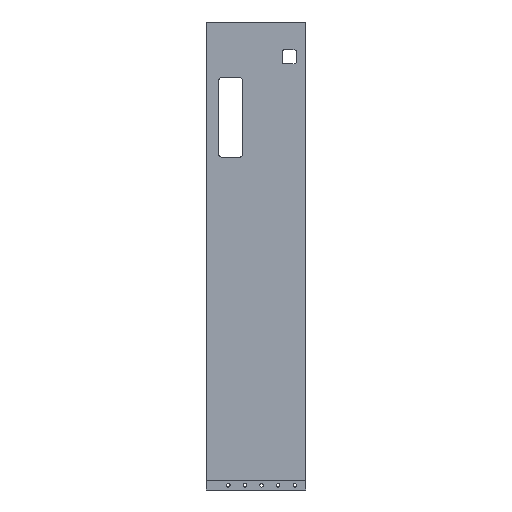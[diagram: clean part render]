
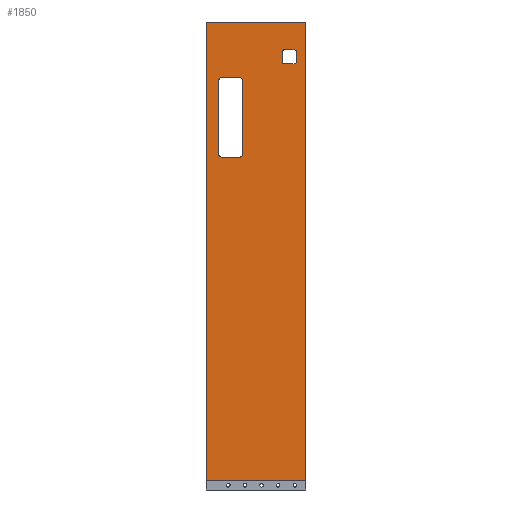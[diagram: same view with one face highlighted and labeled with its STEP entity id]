
A CAD part, front view. The second image highlights one B-rep face of the part: STEP entity #1850.
In plain terms, the highlighted planar face has unit normal (0, -1, 0).
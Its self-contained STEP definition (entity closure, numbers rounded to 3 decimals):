
#33=PLANE('',#2139);
#40=LINE('',#2807,#90);
#43=LINE('',#2818,#93);
#47=LINE('',#2830,#97);
#50=LINE('',#2839,#100);
#56=LINE('',#2909,#106);
#60=LINE('',#2921,#110);
#64=LINE('',#2933,#114);
#66=LINE('',#2941,#116);
#68=LINE('',#3241,#118);
#78=LINE('',#3260,#128);
#81=LINE('',#3267,#131);
#84=LINE('',#3272,#134);
#90=VECTOR('',#2188,12.);
#93=VECTOR('',#2199,12.);
#97=VECTOR('',#2211,12.);
#100=VECTOR('',#2222,12.);
#106=VECTOR('',#2308,94.);
#110=VECTOR('',#2320,24.);
#114=VECTOR('',#2332,94.);
#116=VECTOR('',#2342,24.);
#118=VECTOR('',#2736,126.);
#128=VECTOR('',#2750,578.5);
#131=VECTOR('',#2757,578.5);
#134=VECTOR('',#2762,126.);
#244=FACE_BOUND('',#738,.T.);
#245=FACE_BOUND('',#739,.T.);
#484=FACE_OUTER_BOUND('',#737,.T.);
#737=EDGE_LOOP('',(#1588,#1589,#1590,#1591));
#738=EDGE_LOOP('',(#1592,#1593,#1594,#1595,#1596,#1597,#1598,#1599));
#739=EDGE_LOOP('',(#1600,#1601,#1602,#1603,#1604,#1605,#1606,#1607));
#776=CIRCLE('',#1873,3.);
#778=CIRCLE('',#1877,3.);
#780=CIRCLE('',#1881,3.);
#782=CIRCLE('',#1885,3.);
#802=CIRCLE('',#1925,3.);
#804=CIRCLE('',#1929,3.);
#806=CIRCLE('',#1933,3.);
#808=CIRCLE('',#1937,3.);
#919=VERTEX_POINT('',#2797);
#920=VERTEX_POINT('',#2799);
#922=VERTEX_POINT('',#2805);
#925=VERTEX_POINT('',#2812);
#926=VERTEX_POINT('',#2814);
#929=VERTEX_POINT('',#2824);
#930=VERTEX_POINT('',#2826);
#932=VERTEX_POINT('',#2835);
#953=VERTEX_POINT('',#2899);
#954=VERTEX_POINT('',#2901);
#956=VERTEX_POINT('',#2907);
#958=VERTEX_POINT('',#2913);
#960=VERTEX_POINT('',#2919);
#962=VERTEX_POINT('',#2925);
#964=VERTEX_POINT('',#2931);
#966=VERTEX_POINT('',#2937);
#1067=VERTEX_POINT('',#3239);
#1068=VERTEX_POINT('',#3240);
#1075=VERTEX_POINT('',#3258);
#1077=VERTEX_POINT('',#3266);
#1089=EDGE_CURVE('',#919,#920,#776,.T.);
#1093=EDGE_CURVE('',#919,#922,#40,.T.);
#1096=EDGE_CURVE('',#925,#926,#778,.T.);
#1098=EDGE_CURVE('',#925,#920,#43,.T.);
#1102=EDGE_CURVE('',#929,#930,#780,.T.);
#1104=EDGE_CURVE('',#929,#926,#47,.T.);
#1108=EDGE_CURVE('',#932,#922,#782,.T.);
#1109=EDGE_CURVE('',#932,#930,#50,.T.);
#1131=EDGE_CURVE('',#953,#954,#802,.T.);
#1135=EDGE_CURVE('',#953,#956,#56,.T.);
#1138=EDGE_CURVE('',#958,#956,#804,.T.);
#1141=EDGE_CURVE('',#958,#960,#60,.T.);
#1144=EDGE_CURVE('',#962,#960,#806,.T.);
#1147=EDGE_CURVE('',#962,#964,#64,.T.);
#1150=EDGE_CURVE('',#966,#964,#808,.T.);
#1151=EDGE_CURVE('',#966,#954,#66,.T.);
#1253=EDGE_CURVE('',#1067,#1068,#68,.T.);
#1263=EDGE_CURVE('',#1068,#1075,#78,.T.);
#1266=EDGE_CURVE('',#1077,#1067,#81,.T.);
#1269=EDGE_CURVE('',#1075,#1077,#84,.T.);
#1588=ORIENTED_EDGE('',*,*,#1253,.T.);
#1589=ORIENTED_EDGE('',*,*,#1263,.T.);
#1590=ORIENTED_EDGE('',*,*,#1269,.T.);
#1591=ORIENTED_EDGE('',*,*,#1266,.T.);
#1592=ORIENTED_EDGE('',*,*,#1109,.T.);
#1593=ORIENTED_EDGE('',*,*,#1102,.F.);
#1594=ORIENTED_EDGE('',*,*,#1104,.T.);
#1595=ORIENTED_EDGE('',*,*,#1096,.F.);
#1596=ORIENTED_EDGE('',*,*,#1098,.T.);
#1597=ORIENTED_EDGE('',*,*,#1089,.F.);
#1598=ORIENTED_EDGE('',*,*,#1093,.T.);
#1599=ORIENTED_EDGE('',*,*,#1108,.F.);
#1600=ORIENTED_EDGE('',*,*,#1135,.T.);
#1601=ORIENTED_EDGE('',*,*,#1138,.F.);
#1602=ORIENTED_EDGE('',*,*,#1141,.T.);
#1603=ORIENTED_EDGE('',*,*,#1144,.F.);
#1604=ORIENTED_EDGE('',*,*,#1147,.T.);
#1605=ORIENTED_EDGE('',*,*,#1150,.F.);
#1606=ORIENTED_EDGE('',*,*,#1151,.T.);
#1607=ORIENTED_EDGE('',*,*,#1131,.F.);
#1850=ADVANCED_FACE('',(#484,#244,#245),#33,.T.);
#1873=AXIS2_PLACEMENT_3D('',#2800,#2181,#2182);
#1877=AXIS2_PLACEMENT_3D('',#2815,#2194,#2195);
#1881=AXIS2_PLACEMENT_3D('',#2827,#2206,#2207);
#1885=AXIS2_PLACEMENT_3D('',#2837,#2218,#2219);
#1925=AXIS2_PLACEMENT_3D('',#2902,#2301,#2302);
#1929=AXIS2_PLACEMENT_3D('',#2915,#2314,#2315);
#1933=AXIS2_PLACEMENT_3D('',#2927,#2326,#2327);
#1937=AXIS2_PLACEMENT_3D('',#2939,#2338,#2339);
#2139=AXIS2_PLACEMENT_3D('',#3271,#2760,#2761);
#2181=DIRECTION('center_axis',(0.,-1.,0.));
#2182=DIRECTION('ref_axis',(0.707,0.,-0.707));
#2188=DIRECTION('',(-1.,0.,0.));
#2194=DIRECTION('center_axis',(0.,-1.,0.));
#2195=DIRECTION('ref_axis',(0.707,0.,0.707));
#2199=DIRECTION('',(0.,0.,-1.));
#2206=DIRECTION('center_axis',(0.,-1.,0.));
#2207=DIRECTION('ref_axis',(-0.707,0.,0.707));
#2211=DIRECTION('',(1.,0.,0.));
#2218=DIRECTION('center_axis',(0.,-1.,0.));
#2219=DIRECTION('ref_axis',(-0.707,0.,-0.707));
#2222=DIRECTION('',(0.,0.,1.));
#2301=DIRECTION('center_axis',(0.,-1.,0.));
#2302=DIRECTION('ref_axis',(-0.707,0.,-0.707));
#2308=DIRECTION('',(0.,0.,1.));
#2314=DIRECTION('center_axis',(0.,-1.,0.));
#2315=DIRECTION('ref_axis',(-0.707,0.,0.707));
#2320=DIRECTION('',(1.,0.,0.));
#2326=DIRECTION('center_axis',(0.,-1.,0.));
#2327=DIRECTION('ref_axis',(0.707,0.,0.707));
#2332=DIRECTION('',(0.,0.,-1.));
#2338=DIRECTION('center_axis',(0.,-1.,0.));
#2339=DIRECTION('ref_axis',(0.707,0.,-0.707));
#2342=DIRECTION('',(-1.,0.,0.));
#2736=DIRECTION('',(1.,0.,0.));
#2750=DIRECTION('',(0.,0.,1.));
#2757=DIRECTION('',(0.,0.,-1.));
#2760=DIRECTION('center_axis',(0.,-1.,0.));
#2761=DIRECTION('ref_axis',(0.,0.,-1.));
#2762=DIRECTION('',(-1.,0.,0.));
#2797=CARTESIAN_POINT('',(48.,-6.,242.5));
#2799=CARTESIAN_POINT('',(51.,-6.,245.5));
#2800=CARTESIAN_POINT('Origin',(48.,-6.,245.5));
#2805=CARTESIAN_POINT('',(36.,-6.,242.5));
#2807=CARTESIAN_POINT('',(30.59,-6.,242.5));
#2812=CARTESIAN_POINT('',(51.,-6.,257.5));
#2814=CARTESIAN_POINT('',(48.,-6.,260.5));
#2815=CARTESIAN_POINT('Origin',(48.,-6.,257.5));
#2818=CARTESIAN_POINT('',(51.,-6.,135.34));
#2824=CARTESIAN_POINT('',(36.,-6.,260.5));
#2826=CARTESIAN_POINT('',(33.,-6.,257.5));
#2827=CARTESIAN_POINT('Origin',(36.,-6.,257.5));
#2830=CARTESIAN_POINT('',(39.59,-6.,260.5));
#2835=CARTESIAN_POINT('',(33.,-6.,245.5));
#2837=CARTESIAN_POINT('Origin',(36.,-6.,245.5));
#2839=CARTESIAN_POINT('',(33.,-6.,144.34));
#2899=CARTESIAN_POINT('',(-47.,-6.,128.));
#2901=CARTESIAN_POINT('',(-44.,-6.,125.));
#2902=CARTESIAN_POINT('Origin',(-44.,-6.,128.));
#2907=CARTESIAN_POINT('',(-47.,-6.,222.));
#2909=CARTESIAN_POINT('',(-47.,-6.,126.59));
#2913=CARTESIAN_POINT('',(-44.,-6.,225.));
#2915=CARTESIAN_POINT('Origin',(-44.,-6.,222.));
#2919=CARTESIAN_POINT('',(-20.,-6.,225.));
#2921=CARTESIAN_POINT('',(5.59,-6.,225.));
#2925=CARTESIAN_POINT('',(-17.,-6.,222.));
#2927=CARTESIAN_POINT('Origin',(-20.,-6.,222.));
#2931=CARTESIAN_POINT('',(-17.,-6.,128.));
#2933=CARTESIAN_POINT('',(-17.,-6.,76.59));
#2937=CARTESIAN_POINT('',(-20.,-6.,125.));
#2939=CARTESIAN_POINT('Origin',(-20.,-6.,128.));
#2941=CARTESIAN_POINT('',(-9.41,-6.,125.));
#3239=CARTESIAN_POINT('',(-63.,-6.,-283.));
#3240=CARTESIAN_POINT('',(63.,-6.,-283.));
#3241=CARTESIAN_POINT('',(-17.41,-6.,-283.));
#3258=CARTESIAN_POINT('',(63.,-6.,295.5));
#3260=CARTESIAN_POINT('',(63.,-6.,295.5));
#3266=CARTESIAN_POINT('',(-63.,-6.,295.5));
#3267=CARTESIAN_POINT('',(-63.,-6.,-295.5));
#3271=CARTESIAN_POINT('Origin',(28.179,-6.,28.179));
#3272=CARTESIAN_POINT('',(-63.,-6.,295.5));
